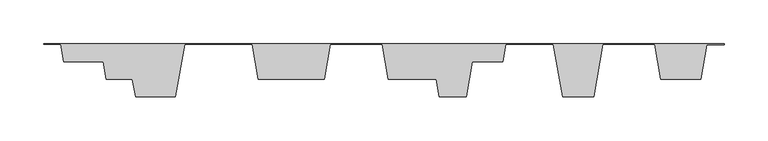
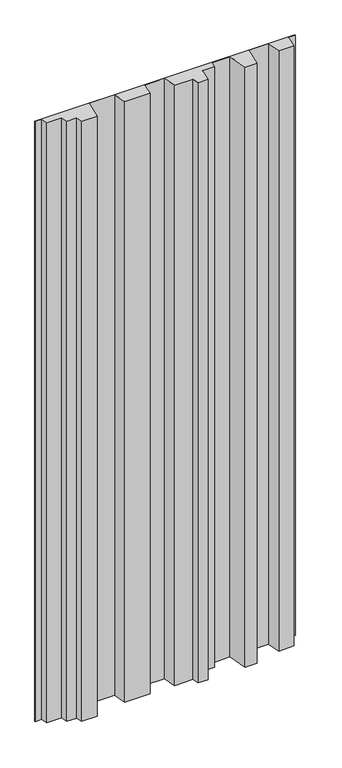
"""IFC4 building model written with IfcOpenShell, lengths in millimetres: plate geometry, ATELIERS 3S_NEW YORK MANHATTAN 780_VERTICAL : AZURO."""

from ifc_helpers import new_model, si_unit, origin, origin_with_axes, place, context, project, spatial, polyline, outline, extrude, source, transform, mapped, element, save


def plate_d6473f5a(model_context):
    return source(origin(), model_context, "Body", "SweptSolid", [
        extrude(outline(polyline([(-370.3146625, -0.864757), (-390.0000002, -0.864757), (-390.0000002, 0.0), (389.9999998, 0.0), (389.9999998, -1.0), (369.9808452, -1.0), (362.9516129, -40.864757), (317.3222882, -40.864757), (310.269209, -0.864757), (250.8985337, -0.864757), (240.3189149, -60.864757), (204.6895902, -60.864757), (194.1099713, -0.864757), (139.739296, -0.864757), (136.2127564, -20.864757), (101.2127564, -20.864757), (94.1596772, -60.864757), (63.5303525, -60.864757), (60.0038129, -40.864757), (5.0038129, -40.864757), (-2.0492664, -0.864757), (-61.4199416, -0.864757), (-68.4730209, -40.864757), (-144.1023456, -40.864757), (-151.1554248, -0.864757), (-228.5261001, -0.864757), (-239.1057189, -60.864757), (-284.7350437, -60.864757), (-288.2615833, -40.864757), (-318.2615833, -40.864757), (-321.7881229, -20.864757), (-366.7881229, -20.864757), (-370.3146625, -0.864757)])), origin_with_axes(), (0.0, 0.0, 1.0), 1900.0),
    ])


if __name__ == "__main__":
    model = new_model("IFC4")
    model_context = context("Model", 3, world=origin())
    ifc_project = project(units=[si_unit("LENGTHUNIT", "METRE", prefix="MILLI")], contexts=[model_context])
    site = spatial("IfcSite", under=ifc_project)
    building = spatial("IfcBuilding", under=site)
    placement = place(None, origin())
    plate_shape = plate_d6473f5a(model_context)
    element("IfcPlate", 1, ObjectType="ATELIERS 3S_NEW YORK MANHATTAN 780_VERTICAL : AZURO", at=placement, inside=building, context=model_context, shape_type="MappedRepresentation", body=[
        mapped(plate_shape, transform((0.0, 0.0, 0.0), x_axis=(1.0, 0.0, 0.0), y_axis=(0.0, 1.0, 0.0), z_axis=(0.0, 0.0, 1.0))),
    ])
    save(model, "model.ifc")
